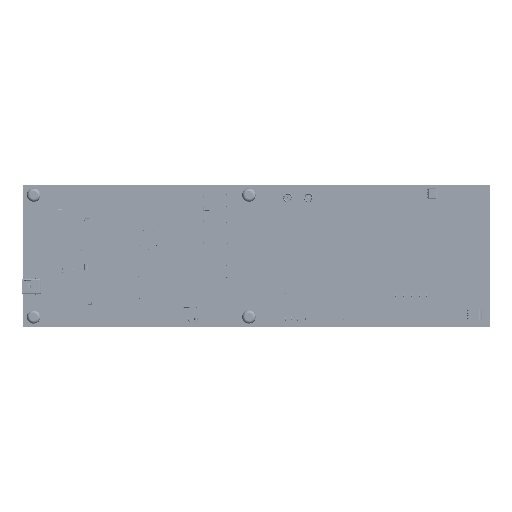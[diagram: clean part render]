
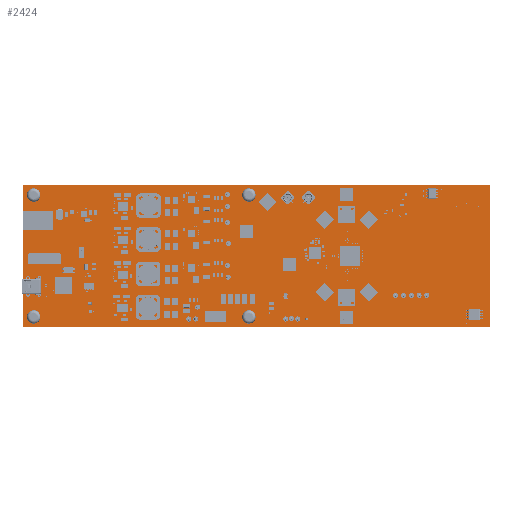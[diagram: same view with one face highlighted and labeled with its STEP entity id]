
A CAD part, top view. The second image highlights one B-rep face of the part: STEP entity #2424.
In plain terms, the highlighted planar face has unit normal (0, 0, 1).
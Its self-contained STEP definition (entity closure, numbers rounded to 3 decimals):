
#2295 = VERTEX_POINT('',#2296);
#2296 = CARTESIAN_POINT('',(0.,0.,0.));
#2302 = EDGE_CURVE('',#2295,#2303,#2305,.T.);
#2303 = VERTEX_POINT('',#2304);
#2304 = CARTESIAN_POINT('',(0.,69.85,0.));
#2305 = LINE('',#2306,#2307);
#2306 = CARTESIAN_POINT('',(0.,0.,0.));
#2307 = VECTOR('',#2308,1.);
#2308 = DIRECTION('',(0.,1.,0.));
#2333 = EDGE_CURVE('',#2303,#2334,#2336,.T.);
#2334 = VERTEX_POINT('',#2335);
#2335 = CARTESIAN_POINT('',(228.6,69.85,0.));
#2336 = LINE('',#2337,#2338);
#2337 = CARTESIAN_POINT('',(0.,69.85,0.));
#2338 = VECTOR('',#2339,1.);
#2339 = DIRECTION('',(1.,0.,0.));
#2364 = EDGE_CURVE('',#2334,#2365,#2367,.T.);
#2365 = VERTEX_POINT('',#2366);
#2366 = CARTESIAN_POINT('',(228.6,0.,0.));
#2367 = LINE('',#2368,#2369);
#2368 = CARTESIAN_POINT('',(228.6,69.85,0.));
#2369 = VECTOR('',#2370,1.);
#2370 = DIRECTION('',(0.,-1.,0.));
#2395 = EDGE_CURVE('',#2365,#2295,#2396,.T.);
#2396 = LINE('',#2397,#2398);
#2397 = CARTESIAN_POINT('',(228.6,0.,0.));
#2398 = VECTOR('',#2399,1.);
#2399 = DIRECTION('',(-1.,0.,0.));
#2424 = ADVANCED_FACE('',(#2425),#2431,.T.);
#2425 = FACE_BOUND('',#2426,.F.);
#2426 = EDGE_LOOP('',(#2427,#2428,#2429,#2430));
#2427 = ORIENTED_EDGE('',*,*,#2302,.T.);
#2428 = ORIENTED_EDGE('',*,*,#2333,.T.);
#2429 = ORIENTED_EDGE('',*,*,#2364,.T.);
#2430 = ORIENTED_EDGE('',*,*,#2395,.T.);
#2431 = PLANE('',#2432);
#2432 = AXIS2_PLACEMENT_3D('',#2433,#2434,#2435);
#2433 = CARTESIAN_POINT('',(0.,0.,0.));
#2434 = DIRECTION('',(0.,0.,1.));
#2435 = DIRECTION('',(1.,0.,0.));
